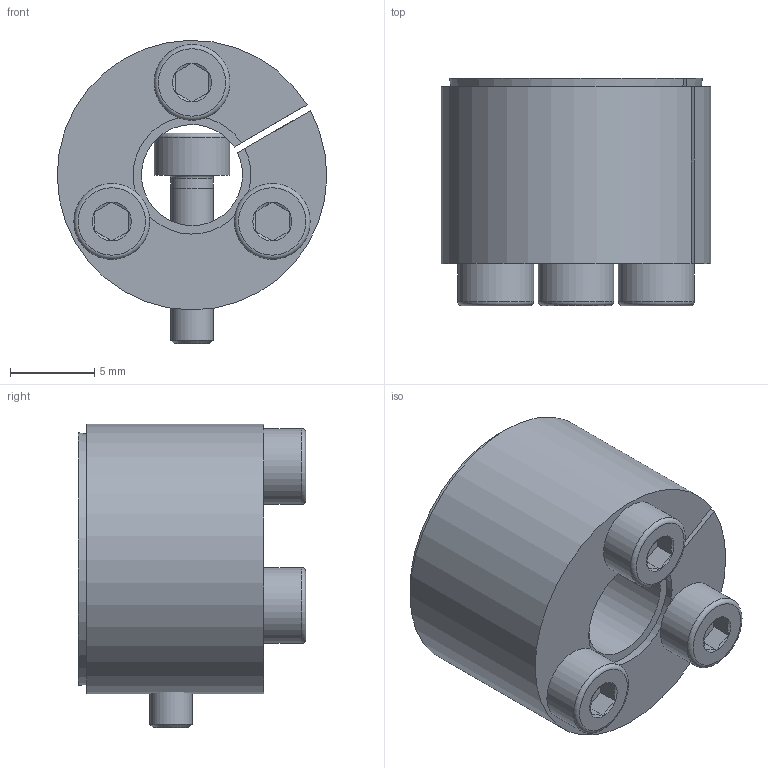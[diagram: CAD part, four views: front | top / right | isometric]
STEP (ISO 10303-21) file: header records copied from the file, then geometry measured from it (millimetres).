
FILE_DESCRIPTION( ( 'Unknown' ), '1' );
FILE_NAME( 'C:/Dokumente und Einstellungen/Sven/Desktop/homepage/cad - homepage/KBS61/KBS 61 - 6 x 16.stp', 'Unknown', ( 'Unknown' ), ( 'Unknown' ), 'XStep 1.0', 'Unknown', ' ' );
FILE_SCHEMA( ( 'automotive_design' ) );
Length unit declared in the file: millimetre
Products named in the file (5): Assem1; KBS 61 - 6 x 16; ISO EN DIN 4762 M2,5x10; ISO EN DIN 4762 M2,5x10-oa0; ISO EN DIN 4762 M2,5x10-oa1
Bounding box: 16 x 13.5 x 18 mm (x, y, z)
Volume: 3902.4 mm3; surface area: 3795.1 mm2
Topology: 8 solids, 8 shells, 176 faces, 330 edges, 194 vertices
Faces by surface type: plane 84, cone 46, cylinder 34, torus 12
Full cylindrical faces by diameter (mm): 2.1 x6, 2.5 x18, 4.5 x6
Entity records: 2356 total; most frequent: CARTESIAN_POINT 433, DIRECTION 364, ORIENTED_EDGE 270, AXIS2_PLACEMENT_3D 158, EDGE_CURVE 135, EDGE_LOOP 130, FACE_OUTER_BOUND 109, VERTEX_POINT 91
